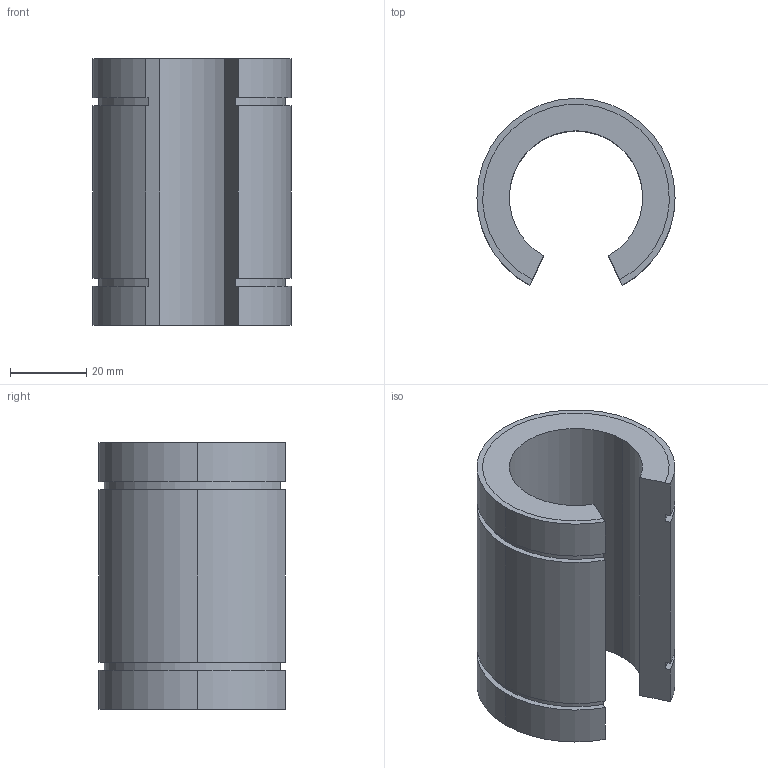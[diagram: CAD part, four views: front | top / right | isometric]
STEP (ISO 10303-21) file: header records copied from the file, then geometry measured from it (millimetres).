
FILE_DESCRIPTION((''),'2;1');
FILE_NAME('C:\Documents and Settings\ｿﾀﾀ蠑ｷ1\ｹﾙﾅﾁ ﾈｭｸ饅\ｺﾎﾇｰﾆﾄﾀﾏ\ﾁｦﾇｰ\LM__UUOP\LM35UUOP.stp','2005-06-14T16:17:54',('ｿﾀﾀ蠑ｷ1'),(''),'Autodesk Inventor 9','Autodesk Inventor 9','');
FILE_SCHEMA(('AUTOMOTIVE_DESIGN { 1 0 10303 214 1 1 1 1 }'));
Length unit declared in the file: millimetre
Products named in the file (1): LM__
Bounding box: 52 x 49.01 x 70 mm (x, y, z)
Volume: 67698.8 mm3; surface area: 20036.5 mm2
Topology: 1 solids, 1 shells, 26 faces, 72 edges, 48 vertices
Faces by surface type: cylinder 16, plane 10
Entity records: 873 total; most frequent: DIRECTION 160, CARTESIAN_POINT 147, ORIENTED_EDGE 144, EDGE_CURVE 72, AXIS2_PLACEMENT_3D 61, VERTEX_POINT 48, VECTOR 38, LINE 38
